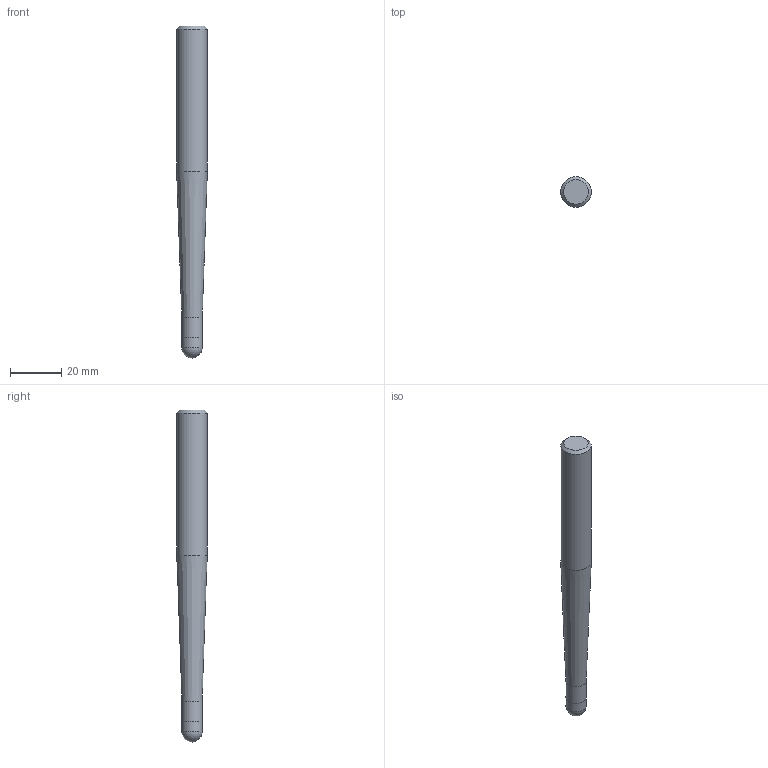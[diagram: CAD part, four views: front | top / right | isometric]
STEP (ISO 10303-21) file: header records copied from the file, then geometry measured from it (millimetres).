
FILE_DESCRIPTION((''),'2;1');
FILE_NAME('C:\Users\nsx150\AppData\Local\Temp\Mastercam 2021\SNAKH10GOD\TEMP.step','2021-10-21T13:34:07',(''),(''),'STEP Write','Mastercam 2021 ... CNC Software, Inc.','');
FILE_SCHEMA(('AUTOMOTIVE_DESIGN'));
Length unit declared in the file: millimetre
Products named in the file (1): None
Bounding box: 12 x 12 x 130 mm (x, y, z)
Volume: 11677.8 mm3; surface area: 4524.2 mm2
Topology: 2 solids, 2 shells, 9 faces, 14 edges, 8 vertices
Faces by surface type: plane 3, cylinder 3, cone 2, sphere 1
Full cylindrical faces by diameter (mm): 7.98 x1, 8 x1, 12 x1
Entity records: 211 total; most frequent: DIRECTION 36, CARTESIAN_POINT 25, AXIS2_PLACEMENT_3D 18, ORIENTED_EDGE 14, EDGE_LOOP 14, STYLED_ITEM 12, ADVANCED_FACE 9, FACE_BOUND 8
